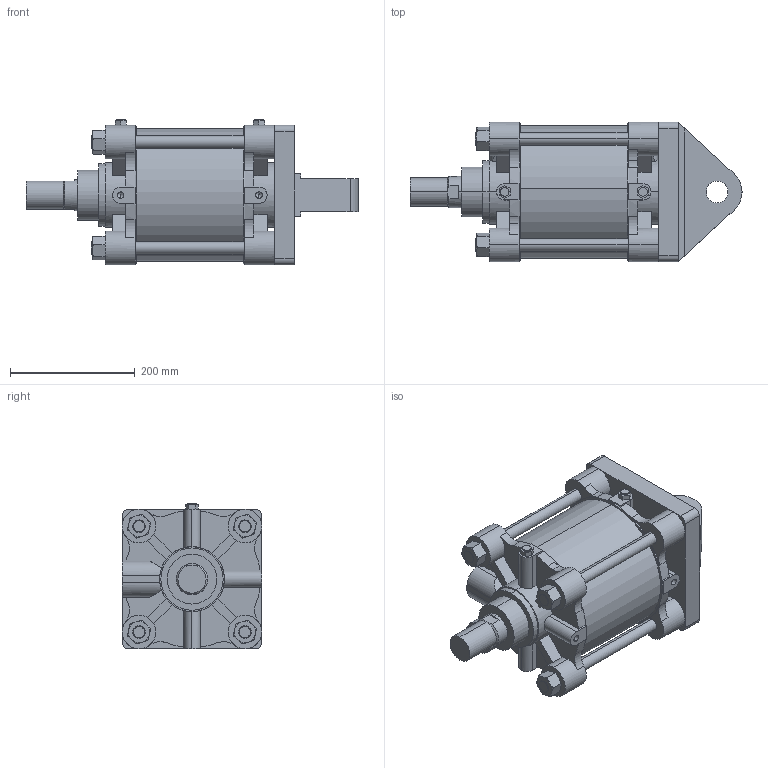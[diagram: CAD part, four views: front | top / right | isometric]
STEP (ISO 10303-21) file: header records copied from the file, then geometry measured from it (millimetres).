
FILE_DESCRIPTION (( 'STEP AP203' ), '1' );
FILE_NAME ('A##2-200#-100-C.STEP', '2016-03-31T07:00:44', ( '' ), ( '' ), 'SwSTEP 2.0', 'SolidWorks 2014', '' );
FILE_SCHEMA (( 'CONFIG_CONTROL_DESIGN' ));
Length unit declared in the file: millimetre
Products named in the file (7): A200-100; A##2-200#-100-C; A200-C; A200-A; A200-B
Assembly tree (12 placements, depth 2):
  A##2-200#-100-C
    A200-B
    A200-100
    A200-A
    (unnamed)  x4
    (unnamed)  x4
    A200-C
Bounding box: 533 x 224 x 234 mm (x, y, z)
Volume: 12119139.7 mm3; surface area: 830730.4 mm2
Topology: 12 solids, 14 shells, 355 faces, 912 edges, 586 vertices
Faces by surface type: plane 182, cylinder 133, torus 24, cone 16
Entity records: 10647 total; most frequent: CARTESIAN_POINT 2142, DIRECTION 1688, ORIENTED_EDGE 1548, EDGE_CURVE 774, AXIS2_PLACEMENT_3D 638, VERTEX_POINT 508, LINE 412, VECTOR 412
